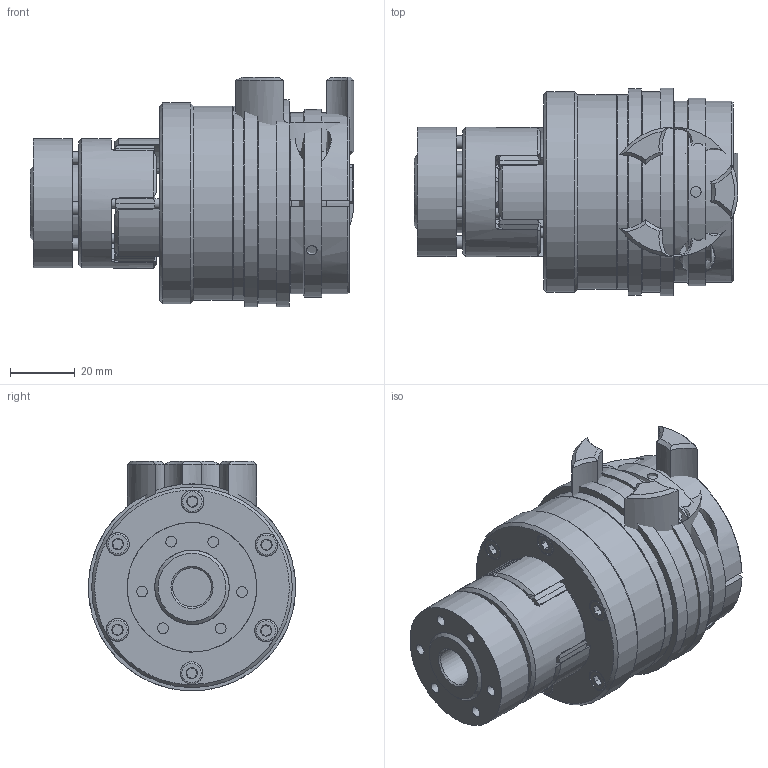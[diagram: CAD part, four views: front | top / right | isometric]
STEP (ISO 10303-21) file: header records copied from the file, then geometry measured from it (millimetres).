
FILE_DESCRIPTION( ( 'Unknown' ), '1' );
FILE_NAME( 'C:/Dokumente und Einstellungen/Sven/Desktop/hp kbk/E-AK/KBK EAK-19-102.stp', 'Unknown', ( 'Unknown' ), ( 'Unknown' ), 'XStep 1.0', 'Unknown', ' ' );
FILE_SCHEMA( ( 'automotive_design' ) );
Length unit declared in the file: millimetre
Products named in the file (17): Assem1; Assem2; ball_bearing_-_6005_0_01_0; ball_bearing_-_6005_0_02_0; ball_bearing_-_6005_0_03_0; Stellring 30_0; Druckring 30_0; a_25_0; Flansch L30_0; Elastomerflansch 19_0; Zahnkranz_19_0; ISO EN DIN 4762_M4x16_0; KBE 3 - 19_Nabe_0; KBE3-19_Druckring_0; L-K-30 Grundkörper_0; Klemmnabe 30_0; schraube_iso_7380-m6x16-12_9_0
Bounding box: 100 x 64 x 71 mm (x, y, z)
Volume: 365635.8 mm3; surface area: 174441.7 mm2
Topology: 44 solids, 44 shells, 1094 faces, 2428 edges, 1518 vertices
Faces by surface type: plane 380, cylinder 330, cone 251, torus 83, bspline 50
Full cylindrical faces by diameter (mm): 2 x4, 3 x12, 3.242 x18, 3.3 x18, 3.5 x13, 4 x26, 4.2 x12, 4.5 x12, 4.917 x2, 6 x2, 6.4 x2, 7 x25, 8 x14, 10 x2, 11 x2, 12 x2, 18 x4, 22 x2, 23.9 x2, 25 x7, 25.1 x2, 30 x2, 32 x6, 34 x2, 38 x4, 40 x6, 40.3 x6, 47 x7, 52 x2, 58 x2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
Entity records: 12297 total; most frequent: CARTESIAN_POINT 3397, DIRECTION 1844, ORIENTED_EDGE 1534, AXIS2_PLACEMENT_3D 839, EDGE_CURVE 767, EDGE_LOOP 630, VERTEX_POINT 552, FACE_OUTER_BOUND 504
